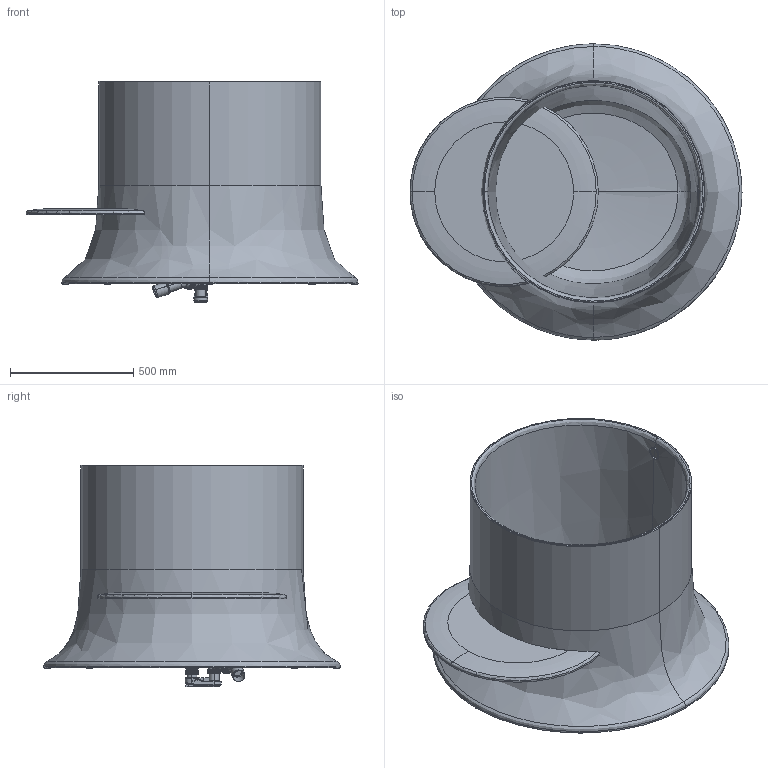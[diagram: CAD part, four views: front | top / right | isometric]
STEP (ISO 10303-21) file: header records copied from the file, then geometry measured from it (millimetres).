
FILE_DESCRIPTION (( 'STEP AP214' ), '1' );
FILE_NAME ('PAA-Baths-Silkstone-Alba-D1200xh820-VAALBS-XX-3D.STEP', '2025-10-16T08:26:54', ( 'PC Lite' ), ( '' ), 'SwSTEP 2.0', 'SolidWorks 2018', '' );
FILE_SCHEMA (( 'AUTOMOTIVE_DESIGN' ));
Length unit declared in the file: millimetre
Products named in the file (2): 3D-Vanna-SilkStone-Alba--VAALBS-XX-3D; PAA-Baths-Silkstone-Alba-D1200xh820-VAALBS-XX-3D
Assembly tree (1 placements, depth 2):
  PAA-Baths-Silkstone-Alba-D1200xh820-VAALBS-XX-3D
    3D-Vanna-SilkStone-Alba--VAALBS-XX-3D
Bounding box: 1344.44 x 1200 x 894.95 mm (x, y, z)
Volume: 92876560.3 mm3; surface area: 10252712 mm2
Topology: 35 solids, 35 shells, 1793 faces, 4368 edges, 2646 vertices
Faces by surface type: bspline 769, cylinder 548, plane 224, cone 135, torus 101, sphere 16
Entity records: 200203 total; most frequent: CARTESIAN_POINT 150178, ORIENTED_EDGE 8688, DIRECTION 4890, EDGE_CURVE 4344, VERTEX_POINT 2646, AXIS2_PLACEMENT_3D 1977, B_SPLINE_CURVE_WITH_KNOTS 1926, EDGE_LOOP 1874
